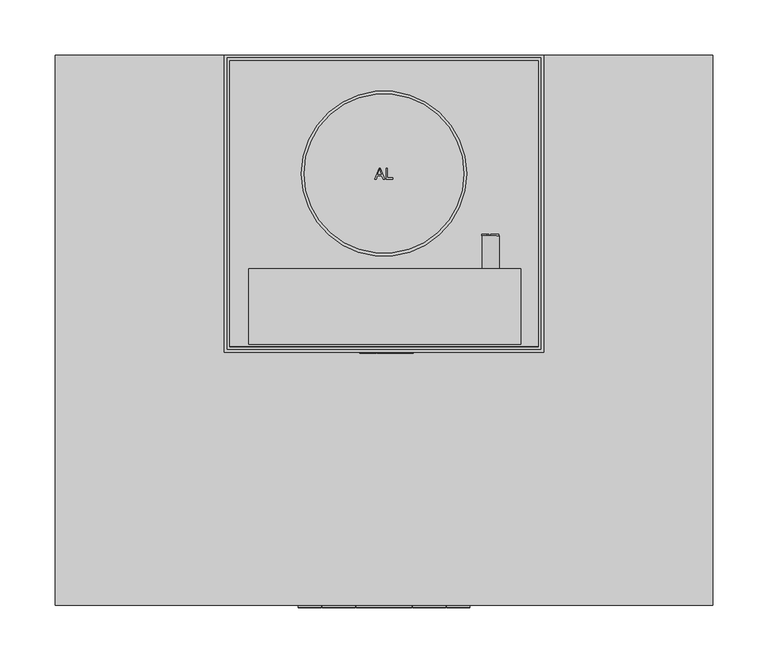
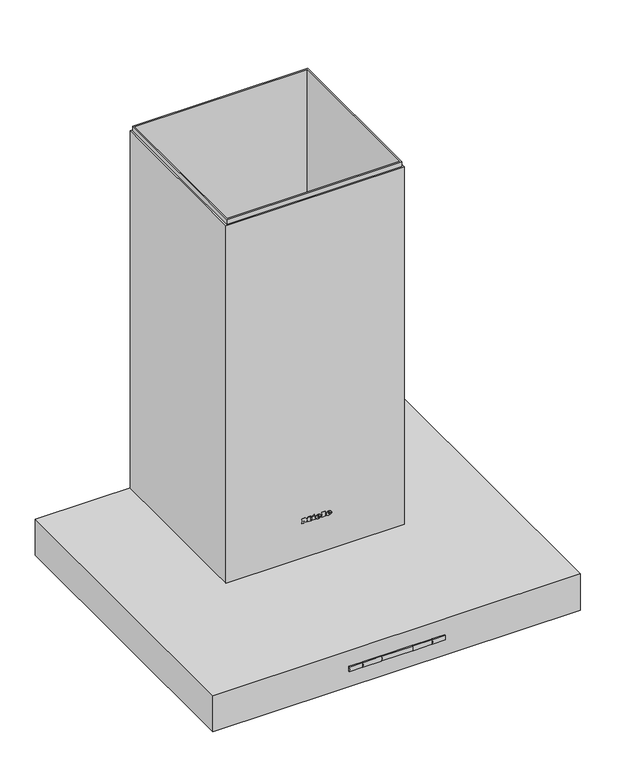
"""IFC4 building model written with IfcOpenShell, lengths in millimetres: proxy geometry, 12409490_D_PUR62W_MASW : 28416255_D_12409490_PUR62W_MASW."""

from ifc_helpers import new_model, si_unit, point, frame, frame_2d, origin, place, context, project, spatial, polyline, circle_curve, ellipse_curve, trimmed, segment, composite_curve, outline, extrude, faceted_brep, source, transform, mapped, element, save
from ifc_brep_helpers import plane_surface, cylinder_surface, revolved_surface, extruded_surface, advanced_brep


def specialty_equipment_f181dd9d(model_context):
    return source(origin(), model_context, "Body", "SolidModel", [
        advanced_brep(
        [(-146.5433287, -435.7, 0.8), (-93.4566713, -435.7, 0.8), (-90.883263, -435.7, 2.0), (-149.116737, -435.7, 2.0), (-120.0, -435.7, 0.8), (-120.0, -435.7, 2.0)],
        [
            (0, 1, circle_curve(frame((-120.0, -435.7, 0.8), z_axis=(0.0, 0.0, 1.0), x_axis=(1.0, 0.0, 0.0)), 26.5433287)),
            (1, 2),
            (2, 3, circle_curve(frame((-120.0, -435.7, 2.0), z_axis=(0.0, 0.0, -1.0), x_axis=(1.0, 0.0, 0.0)), 29.116737)),
            (3, 0),
            (1, 0, circle_curve(frame((-120.0, -435.7, 0.8), z_axis=(0.0, 0.0, 1.0), x_axis=(1.0, 0.0, 0.0)), 26.5433287)),
            (3, 2, circle_curve(frame((-120.0, -435.7, 2.0), z_axis=(0.0, 0.0, -1.0), x_axis=(1.0, 0.0, 0.0)), 29.116737)),
            (0, 4),
            (4, 1),
            (2, 5),
            (5, 3),
        ],
        [
            revolved_surface(polyline([(-90.883263, -435.7, 2.0), (-93.4566713, -435.7, 0.8)]), (-120.0, -435.7, 2240.4), (0.0, 0.0, -1.0)),
            plane_surface(frame((-120.0, -435.7, 0.8), z_axis=(0.0, 0.0, -1.0), x_axis=(1.0, 0.0, 0.0))),
            plane_surface(frame((-120.0, -435.7, 2.0), z_axis=(0.0, 0.0, 1.0), x_axis=(1.0, 0.0, 0.0))),
        ],
        [
            (0, [[1, 2, 3, 4]]),
            (0, [[-2, 5, -4, 6]]),
            (1, [[-1, 7, 8]]),
            (1, [[-5, -8, -7]]),
            (2, [[-3, 9, 10]]),
            (2, [[-6, -10, -9]]),
        ],
    ),
        advanced_brep(
        [(93.4566713, -435.7, 0.8), (146.5433287, -435.7, 0.8), (149.116737, -435.7, 2.0), (90.883263, -435.7, 2.0), (120.0, -435.7, 0.8), (120.0, -435.7, 2.0)],
        [
            (0, 1, circle_curve(frame((120.0, -435.7, 0.8), z_axis=(0.0, 0.0, 1.0), x_axis=(1.0, 0.0, 0.0)), 26.5433287)),
            (1, 2),
            (2, 3, circle_curve(frame((120.0, -435.7, 2.0), z_axis=(0.0, 0.0, -1.0), x_axis=(1.0, 0.0, 0.0)), 29.116737)),
            (3, 0),
            (1, 0, circle_curve(frame((120.0, -435.7, 0.8), z_axis=(0.0, 0.0, 1.0), x_axis=(1.0, 0.0, 0.0)), 26.5433287)),
            (3, 2, circle_curve(frame((120.0, -435.7, 2.0), z_axis=(0.0, 0.0, -1.0), x_axis=(1.0, 0.0, 0.0)), 29.116737)),
            (0, 4),
            (4, 1),
            (2, 5),
            (5, 3),
        ],
        [
            revolved_surface(polyline([(149.116737, -435.7, 2.0), (146.5433287, -435.7, 0.8)]), (120.0, -435.7, 2240.4), (0.0, 0.0, -1.0)),
            plane_surface(frame((120.0, -435.7, 0.8), z_axis=(0.0, 0.0, -1.0), x_axis=(1.0, 0.0, 0.0))),
            plane_surface(frame((120.0, -435.7, 2.0), z_axis=(0.0, 0.0, 1.0), x_axis=(1.0, 0.0, 0.0))),
        ],
        [
            (0, [[1, 2, 3, 4]]),
            (0, [[-2, 5, -4, 6]]),
            (1, [[-1, 7, 8]]),
            (1, [[-5, -8, -7]]),
            (2, [[-3, 9, 10]]),
            (2, [[-6, -10, -9]]),
        ],
    ),
        extrude(outline(polyline([(9.0, -34.0), (271.0, -34.0), (271.0, -391.0), (9.0, -391.0), (9.0, -34.0)])), frame((0.0, 0.0, 6.5), z_axis=(0.0, 0.0, 1.0), x_axis=(1.0, 0.0, 0.0)), (0.0, 0.0, 1.0), 6.0),
        extrude(outline(polyline([(0.0, -25.0), (280.0, -25.0), (280.0, -400.0), (0.0, -400.0), (0.0, -25.0)]), holes=[polyline([(9.0, -34.0), (9.0, -391.0), (271.0, -391.0), (271.0, -34.0), (9.0, -34.0)])]), frame((0.0, 0.0, 5.0), z_axis=(0.0, 0.0, 1.0), x_axis=(1.0, 0.0, 0.0)), (0.0, 0.0, 1.0), 9.0),
        extrude(outline(polyline([(-9.0, -34.0), (-9.0, -391.0), (-271.0, -391.0), (-271.0, -34.0), (-9.0, -34.0)])), frame((0.0, 0.0, 6.5), z_axis=(0.0, 0.0, 1.0), x_axis=(1.0, 0.0, 0.0)), (0.0, 0.0, 1.0), 6.0),
        extrude(outline(polyline([(0.0, -25.0), (0.0, -400.0), (-280.0, -400.0), (-280.0, -25.0), (0.0, -25.0)]), holes=[polyline([(-9.0, -34.0), (-271.0, -34.0), (-271.0, -391.0), (-9.0, -391.0), (-9.0, -34.0)])]), frame((0.0, 0.0, 5.0), z_axis=(0.0, 0.0, 1.0), x_axis=(1.0, 0.0, 0.0)), (0.0, 0.0, 1.0), 9.0),
        extrude(outline(polyline([(123.5, -348.0), (156.5, -348.0), (156.5, -391.0), (123.5, -391.0), (123.5, -348.0)]), holes=[polyline([(130.0, -354.5), (130.0, -363.5), (149.7714328, -363.5), (149.7714328, -354.5), (130.0, -354.5)])]), frame((0.0, 0.0, 5.0), z_axis=(0.0, 0.0, 1.0), x_axis=(1.0, 0.0, 0.0)), (0.0, 0.0, 1.0), 1.5),
        extrude(outline(polyline([(-123.5, -348.0), (-123.5, -391.0), (-156.5, -391.0), (-156.5, -348.0), (-123.5, -348.0)]), holes=[polyline([(-130.0, -354.5), (-150.0, -354.5), (-150.0, -363.5), (-130.0, -363.5), (-130.0, -354.5)])]), frame((0.0, 0.0, 5.0), z_axis=(0.0, 0.0, 1.0), x_axis=(1.0, 0.0, 0.0)), (0.0, 0.0, 1.0), 1.5),
        faceted_brep([(140.0, -5.0, 685.0), (-140.0, -5.0, 685.0), (-140.0, -5.0, 210.0), (140.0, -5.0, 210.0), (-140.0, -265.0, 685.0), (140.0, -265.0, 685.0), (140.0, -265.0, 210.0), (-140.0, -265.0, 210.0), (121.0, -265.0, 245.0), (121.0, -265.0, 345.0), (109.0, -265.0, 345.0), (109.0, -265.0, 245.0), (-121.0, -265.0, 345.0), (-121.0, -265.0, 245.0), (-109.0, -265.0, 245.0), (-109.0, -265.0, 345.0), (-86.0, -265.0, 345.0), (-97.5, -265.0, 345.0), (-97.5, -265.0, 245.0), (-86.0, -265.0, 245.0), (-63.0, -265.0, 345.0), (-74.5, -265.0, 345.0), (-74.5, -265.0, 245.0), (-63.0, -265.0, 245.0), (-40.0, -265.0, 345.0), (-51.5, -265.0, 345.0), (-51.5, -265.0, 245.0), (-40.0, -265.0, 245.0), (-17.0, -265.0, 345.0), (-28.5, -265.0, 345.0), (-28.5, -265.0, 245.0), (-17.0, -265.0, 245.0), (5.5, -265.0, 345.0), (-5.5, -265.0, 345.0), (-5.5, -265.0, 245.0), (5.5, -265.0, 245.0), (28.5, -265.0, 345.0), (17.0, -265.0, 345.0), (17.0, -265.0, 245.0), (28.5, -265.0, 245.0), (51.5, -265.0, 345.0), (40.0, -265.0, 345.0), (40.0, -265.0, 245.0), (51.5, -265.0, 245.0), (74.5, -265.0, 345.0), (63.0, -265.0, 345.0), (63.0, -265.0, 245.0), (74.5, -265.0, 245.0), (97.5, -265.0, 345.0), (86.0, -265.0, 345.0), (86.0, -265.0, 245.0), (97.5, -265.0, 245.0), (-142.5, -65.4, 245.0), (-140.0, -65.4, 245.0), (-140.0, -65.4, 345.0), (-142.5, -65.4, 345.0), (-140.0, -76.0, 345.0), (-142.5, -76.0, 345.0), (-140.0, -44.2, 245.0), (-142.5, -44.2, 245.0), (-142.5, -54.8, 245.0), (-140.0, -54.8, 245.0), (-140.0, -44.2, 345.0), (-142.5, -44.2, 345.0), (-140.0, -23.0, 245.0), (-142.5, -23.0, 245.0), (-142.5, -33.6, 245.0), (-140.0, -33.6, 245.0), (-140.0, -23.0, 345.0), (-142.5, -23.0, 345.0), (-121.0, -267.5, 345.0), (-109.0, -267.5, 345.0), (-109.0, -267.5, 245.0), (-86.0, -267.5, 345.0), (-97.5, -267.5, 345.0), (-63.0, -267.5, 345.0), (-74.5, -267.5, 345.0), (-40.0, -267.5, 345.0), (-51.5, -267.5, 345.0), (-17.0, -267.5, 345.0), (-28.5, -267.5, 345.0), (5.5, -267.5, 345.0), (-5.5, -267.5, 345.0), (28.5, -267.5, 345.0), (17.0, -267.5, 345.0), (51.5, -267.5, 345.0), (40.0, -267.5, 345.0), (74.5, -267.5, 345.0), (63.0, -267.5, 345.0), (97.5, -267.5, 345.0), (86.0, -267.5, 345.0), (-142.5, -267.5, 685.0), (142.5, -267.5, 685.0), (142.5, -2.5, 685.0), (-142.5, -2.5, 685.0), (-142.5, -267.5, 210.0), (-142.5, -2.5, 210.0), (142.5, -2.5, 210.0), (142.5, -267.5, 210.0), (-142.5, -247.0, 245.0), (-142.5, -236.4, 245.0), (-142.5, -236.4, 345.0), (-142.5, -247.0, 345.0), (-142.5, -225.8, 245.0), (-142.5, -215.2, 245.0), (-142.5, -215.2, 345.0), (-142.5, -225.8, 345.0), (-142.5, -204.6, 245.0), (-142.5, -194.0, 245.0), (-142.5, -194.0, 345.0), (-142.5, -204.6, 345.0), (-142.5, -183.4, 245.0), (-142.5, -172.8, 245.0), (-142.5, -172.8, 345.0), (-142.5, -183.4, 345.0), (-142.5, -162.2, 245.0), (-142.5, -151.6, 245.0), (-142.5, -151.6, 345.0), (-142.5, -162.2, 345.0), (-142.5, -141.0, 245.0), (-142.5, -129.0, 245.0), (-142.5, -129.0, 345.0), (-142.5, -141.0, 345.0), (-142.5, -118.4, 245.0), (-142.5, -107.8, 245.0), (-142.5, -107.8, 345.0), (-142.5, -118.4, 345.0), (-142.5, -97.2, 245.0), (-142.5, -86.6, 245.0), (-142.5, -86.6, 345.0), (-142.5, -97.2, 345.0), (-142.5, -76.0, 245.0), (-142.5, -54.8, 345.0), (-142.5, -33.6, 345.0), (-140.0, -236.4, 245.0), (-140.0, -247.0, 245.0), (-140.0, -247.0, 345.0), (-140.0, -236.4, 345.0), (-140.0, -215.2, 245.0), (-140.0, -225.8, 245.0), (-140.0, -225.8, 345.0), (-140.0, -215.2, 345.0), (-140.0, -194.0, 245.0), (-140.0, -204.6, 245.0), (-140.0, -204.6, 345.0), (-140.0, -194.0, 345.0), (-140.0, -172.8, 245.0), (-140.0, -183.4, 245.0), (-140.0, -183.4, 345.0), (-140.0, -172.8, 345.0), (-140.0, -151.6, 245.0), (-140.0, -162.2, 245.0), (-140.0, -162.2, 345.0), (-140.0, -151.6, 345.0), (-140.0, -129.0, 245.0), (-140.0, -141.0, 245.0), (-140.0, -141.0, 345.0), (-140.0, -129.0, 345.0), (-140.0, -107.8, 245.0), (-140.0, -118.4, 245.0), (-140.0, -118.4, 345.0), (-140.0, -107.8, 345.0), (-140.0, -86.6, 245.0), (-140.0, -97.2, 245.0), (-140.0, -97.2, 345.0), (-140.0, -86.6, 345.0), (-140.0, -76.0, 245.0), (-140.0, -54.8, 345.0), (-140.0, -33.6, 345.0), (140.0, -162.2, 345.0), (140.0, -162.2, 245.0), (140.0, -151.6, 245.0), (140.0, -151.6, 345.0), (140.0, -44.2, 245.0), (140.0, -44.2, 345.0), (140.0, -54.8, 345.0), (140.0, -54.8, 245.0), (140.0, -65.4, 245.0), (140.0, -65.4, 345.0), (140.0, -76.0, 345.0), (140.0, -76.0, 245.0), (140.0, -86.6, 245.0), (140.0, -86.6, 345.0), (140.0, -97.2, 345.0), (140.0, -97.2, 245.0), (140.0, -107.8, 245.0), (140.0, -107.8, 345.0), (140.0, -118.4, 345.0), (140.0, -118.4, 245.0), (140.0, -129.0, 245.0), (140.0, -129.0, 345.0), (140.0, -141.0, 345.0), (140.0, -141.0, 245.0), (140.0, -247.0, 345.0), (140.0, -247.0, 245.0), (140.0, -236.4, 245.0), (140.0, -236.4, 345.0), (140.0, -23.0, 245.0), (140.0, -23.0, 345.0), (140.0, -33.6, 345.0), (140.0, -33.6, 245.0), (140.0, -225.8, 345.0), (140.0, -225.8, 245.0), (140.0, -215.2, 245.0), (140.0, -215.2, 345.0), (140.0, -204.6, 345.0), (140.0, -204.6, 245.0), (140.0, -194.0, 245.0), (140.0, -194.0, 345.0), (140.0, -183.4, 345.0), (140.0, -183.4, 245.0), (140.0, -172.8, 245.0), (140.0, -172.8, 345.0), (142.5, -225.8, 245.0), (142.5, -225.8, 345.0), (142.5, -215.2, 345.0), (142.5, -215.2, 245.0), (142.5, -204.6, 245.0), (142.5, -204.6, 345.0), (142.5, -194.0, 345.0), (142.5, -194.0, 245.0), (142.5, -183.4, 245.0), (142.5, -183.4, 345.0), (142.5, -172.8, 345.0), (142.5, -172.8, 245.0), (142.5, -162.2, 245.0), (142.5, -162.2, 345.0), (142.5, -151.6, 345.0), (142.5, -151.6, 245.0), (142.5, -44.2, 345.0), (142.5, -44.2, 245.0), (142.5, -54.8, 245.0), (142.5, -54.8, 345.0), (142.5, -65.4, 345.0), (142.5, -65.4, 245.0), (142.5, -76.0, 245.0), (142.5, -76.0, 345.0), (142.5, -86.6, 345.0), (142.5, -86.6, 245.0), (142.5, -97.2, 245.0), (142.5, -97.2, 345.0), (142.5, -107.8, 345.0), (142.5, -107.8, 245.0), (142.5, -118.4, 245.0), (142.5, -118.4, 345.0), (142.5, -129.0, 345.0), (142.5, -129.0, 245.0), (142.5, -141.0, 245.0), (142.5, -141.0, 345.0), (142.5, -23.0, 345.0), (142.5, -23.0, 245.0), (142.5, -33.6, 245.0), (142.5, -33.6, 345.0), (142.5, -247.0, 245.0), (142.5, -247.0, 345.0), (142.5, -236.4, 345.0), (142.5, -236.4, 245.0), (-86.0, -267.5, 245.0), (-97.5, -267.5, 245.0), (-63.0, -267.5, 245.0), (-74.5, -267.5, 245.0), (-40.0, -267.5, 245.0), (-51.5, -267.5, 245.0), (-17.0, -267.5, 245.0), (-28.5, -267.5, 245.0), (5.5, -267.5, 245.0), (-5.5, -267.5, 245.0), (28.5, -267.5, 245.0), (17.0, -267.5, 245.0), (51.5, -267.5, 245.0), (40.0, -267.5, 245.0), (74.5, -267.5, 245.0), (63.0, -267.5, 245.0), (97.5, -267.5, 245.0), (86.0, -267.5, 245.0), (121.0, -267.5, 345.0), (121.0, -267.5, 245.0), (109.0, -267.5, 245.0), (109.0, -267.5, 345.0), (-121.0, -267.5, 245.0)], [[[0, 1, 2, 3]], [[4, 5, 6, 7], [8, 9, 10, 11], [12, 13, 14, 15], [16, 17, 18, 19], [20, 21, 22, 23], [24, 25, 26, 27], [28, 29, 30, 31], [32, 33, 34, 35], [36, 37, 38, 39], [40, 41, 42, 43], [44, 45, 46, 47], [48, 49, 50, 51]], [[52, 53, 54, 55]], [[55, 54, 56, 57]], [[58, 59, 60, 61]], [[59, 58, 62, 63]], [[64, 65, 66, 67]], [[65, 64, 68, 69]], [[70, 12, 15, 71]], [[71, 15, 14, 72]], [[16, 73, 74, 17]], [[20, 75, 76, 21]], [[24, 77, 78, 25]], [[28, 79, 80, 29]], [[32, 81, 82, 33]], [[36, 83, 84, 37]], [[40, 85, 86, 41]], [[44, 87, 88, 45]], [[48, 89, 90, 49]], [[91, 92, 93, 94], [0, 5, 4, 1]], [[95, 96, 97, 98], [3, 2, 7, 6]], [[91, 94, 96, 95], [99, 100, 101, 102], [103, 104, 105, 106], [107, 108, 109, 110], [111, 112, 113, 114], [115, 116, 117, 118], [119, 120, 121, 122], [123, 124, 125, 126], [127, 128, 129, 130], [131, 52, 55, 57], [60, 59, 63, 132], [66, 65, 69, 133]], [[1, 4, 7, 2], [134, 135, 136, 137], [138, 139, 140, 141], [142, 143, 144, 145], [146, 147, 148, 149], [150, 151, 152, 153], [154, 155, 156, 157], [158, 159, 160, 161], [162, 163, 164, 165], [53, 166, 56, 54], [58, 61, 167, 62], [64, 67, 168, 68]], [[5, 0, 3, 6], [169, 170, 171, 172], [173, 174, 175, 176], [177, 178, 179, 180], [181, 182, 183, 184], [185, 186, 187, 188], [189, 190, 191, 192], [193, 194, 195, 196], [197, 198, 199, 200], [201, 202, 203, 204], [205, 206, 207, 208], [209, 210, 211, 212]], [[93, 92, 98, 97], [213, 214, 215, 216], [217, 218, 219, 220], [221, 222, 223, 224], [225, 226, 227, 228], [229, 230, 231, 232], [233, 234, 235, 236], [237, 238, 239, 240], [241, 242, 243, 244], [245, 246, 247, 248], [249, 250, 251, 252], [253, 254, 255, 256]], [[92, 91, 95, 98], [74, 73, 257, 258], [76, 75, 259, 260], [78, 77, 261, 262], [80, 79, 263, 264], [82, 81, 265, 266], [84, 83, 267, 268], [86, 85, 269, 270], [88, 87, 271, 272], [90, 89, 273, 274], [275, 276, 277, 278], [279, 70, 71, 72]], [[94, 93, 97, 96]], [[8, 276, 275, 9]], [[12, 70, 279, 13]], [[253, 194, 193, 254]], [[249, 198, 197, 250]], [[194, 253, 256, 195]], [[195, 256, 255, 196]], [[254, 193, 196, 255]], [[198, 249, 252, 199]], [[199, 252, 251, 200]], [[250, 197, 200, 251]], [[213, 202, 201, 214]], [[202, 213, 216, 203]], [[203, 216, 215, 204]], [[214, 201, 204, 215]], [[217, 206, 205, 218]], [[206, 217, 220, 207]], [[207, 220, 219, 208]], [[218, 205, 208, 219]], [[221, 210, 209, 222]], [[210, 221, 224, 211]], [[211, 224, 223, 212]], [[222, 209, 212, 223]], [[225, 170, 169, 226]], [[170, 225, 228, 171]], [[171, 228, 227, 172]], [[226, 169, 172, 227]], [[229, 174, 173, 230]], [[174, 229, 232, 175]], [[175, 232, 231, 176]], [[230, 173, 176, 231]], [[233, 178, 177, 234]], [[178, 233, 236, 179]], [[179, 236, 235, 180]], [[234, 177, 180, 235]], [[237, 182, 181, 238]], [[182, 237, 240, 183]], [[183, 240, 239, 184]], [[238, 181, 184, 239]], [[241, 186, 185, 242]], [[186, 241, 244, 187]], [[187, 244, 243, 188]], [[242, 185, 188, 243]], [[245, 190, 189, 246]], [[190, 245, 248, 191]], [[191, 248, 247, 192]], [[246, 189, 192, 247]], [[134, 100, 99, 135]], [[100, 134, 137, 101]], [[101, 137, 136, 102]], [[135, 99, 102, 136]], [[138, 104, 103, 139]], [[104, 138, 141, 105]], [[105, 141, 140, 106]], [[139, 103, 106, 140]], [[142, 108, 107, 143]], [[108, 142, 145, 109]], [[109, 145, 144, 110]], [[143, 107, 110, 144]], [[146, 112, 111, 147]], [[112, 146, 149, 113]], [[113, 149, 148, 114]], [[147, 111, 114, 148]], [[150, 116, 115, 151]], [[116, 150, 153, 117]], [[117, 153, 152, 118]], [[151, 115, 118, 152]], [[154, 120, 119, 155]], [[120, 154, 157, 121]], [[121, 157, 156, 122]], [[155, 119, 122, 156]], [[158, 124, 123, 159]], [[124, 158, 161, 125]], [[125, 161, 160, 126]], [[159, 123, 126, 160]], [[162, 128, 127, 163]], [[128, 162, 165, 129]], [[129, 165, 164, 130]], [[163, 127, 130, 164]], [[53, 52, 131, 166]], [[166, 131, 57, 56]], [[63, 62, 167, 132]], [[61, 60, 132, 167]], [[69, 68, 168, 133]], [[67, 66, 133, 168]], [[13, 279, 72, 14]], [[276, 8, 11, 277]], [[277, 11, 10, 278]], [[9, 275, 278, 10]], [[73, 16, 19, 257]], [[257, 19, 18, 258]], [[17, 74, 258, 18]], [[75, 20, 23, 259]], [[259, 23, 22, 260]], [[21, 76, 260, 22]], [[77, 24, 27, 261]], [[261, 27, 26, 262]], [[25, 78, 262, 26]], [[79, 28, 31, 263]], [[263, 31, 30, 264]], [[29, 80, 264, 30]], [[81, 32, 35, 265]], [[265, 35, 34, 266]], [[33, 82, 266, 34]], [[83, 36, 39, 267]], [[267, 39, 38, 268]], [[37, 84, 268, 38]], [[85, 40, 43, 269]], [[269, 43, 42, 270]], [[41, 86, 270, 42]], [[87, 44, 47, 271]], [[271, 47, 46, 272]], [[45, 88, 272, 46]], [[89, 48, 51, 273]], [[273, 51, 50, 274]], [[49, 90, 274, 50]]]),
        extrude(outline(polyline([(145.0, 0.0), (145.0, -270.0), (-145.0, -270.0), (-145.0, 0.0), (145.0, 0.0)]), holes=[polyline([(-142.5, -2.5), (-142.5, -267.5), (142.5, -267.5), (142.5, -2.5), (-142.5, -2.5)])]), frame((0.0, 0.0, 62.0), z_axis=(0.0, 0.0, 1.0), x_axis=(1.0, 0.0, 0.0)), (0.0, 0.0, 1.0), 615.0),
        advanced_brep(
        [(21.104, -271.0, 123.896), (21.104, -271.0, 124.704), (26.456, -271.0, 124.704), (17.144, -271.0, 124.704), (19.344, -271.0, 122.0), (26.32, -271.0, 123.896), (23.904, -271.0, 123.896), (22.0, -271.0, 123.0), (21.104, -271.0, 125.728), (21.104, -271.0, 126.6), (22.472, -271.0, 126.6), (22.472, -271.0, 125.728), (21.104, -270.0, 123.896), (22.0, -270.0, 123.0), (23.904, -270.0, 123.896), (26.32, -270.0, 123.896), (19.344, -270.0, 122.0), (17.144, -270.0, 124.704), (26.456, -270.0, 124.704), (21.104, -270.0, 124.704), (21.104, -270.0, 125.728), (22.472, -270.0, 125.728), (22.472, -270.0, 126.6), (21.104, -270.0, 126.6)],
        [
            (0, 1),
            (1, 2),
            (2, 3, ellipse_curve(frame((21.8, -271.0, 124.704), z_axis=(0.0, -1.0, -1.2192856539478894e-11), x_axis=(-1.0, 0.0, 0.0)), 4.656, 3.848)),
            (3, 4, circle_curve(frame((20.2400436, -271.0, 124.976), z_axis=(0.0, -1.0, -1.2192856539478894e-11), x_axis=(0.0, 1.2192856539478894e-11, -1.0)), 3.1079688)),
            (4, 5, circle_curve(frame((21.7067936, -271.0, 127.088), z_axis=(0.0, -1.0, -1.2192856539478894e-11), x_axis=(0.0, 1.2192856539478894e-11, -1.0)), 5.6098607)),
            (5, 6),
            (6, 7, circle_curve(frame((22.3910588, -271.0, 124.64), z_axis=(0.0, 1.0, 1.2192856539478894e-11), x_axis=(0.0, 1.2192856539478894e-11, -1.0)), 1.6859795)),
            (7, 0, circle_curve(frame((22.0, -271.0, 123.896), z_axis=(0.0, 1.0, 1.2192856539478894e-11), x_axis=(0.0, 1.2192856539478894e-11, -1.0)), 0.896)),
            (8, 9),
            (9, 10, circle_curve(frame((21.788, -271.0, 126.6), z_axis=(0.0, 1.0, 1.2192856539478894e-11), x_axis=(0.0, 1.2192856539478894e-11, -1.0)), 0.684)),
            (10, 11),
            (11, 8),
            (12, 13, circle_curve(frame((22.0, -270.0, 123.896), z_axis=(0.0, -1.0, -1.2192856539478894e-11), x_axis=(0.0, 1.2192856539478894e-11, -1.0)), 0.896)),
            (13, 14, circle_curve(frame((22.3910588, -270.0, 124.64), z_axis=(0.0, -1.0, -1.2192856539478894e-11), x_axis=(0.0, 1.2192856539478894e-11, -1.0)), 1.6859795)),
            (14, 15),
            (15, 16, circle_curve(frame((21.7067936, -270.0, 127.088), z_axis=(0.0, 1.0, 1.2192856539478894e-11), x_axis=(0.0, 1.2192856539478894e-11, -1.0)), 5.6098607)),
            (16, 17, circle_curve(frame((20.2400436, -270.0, 124.976), z_axis=(0.0, 1.0, 1.2192856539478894e-11), x_axis=(0.0, 1.2192856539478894e-11, -1.0)), 3.1079688)),
            (17, 18, ellipse_curve(frame((21.8, -270.0, 124.704), z_axis=(0.0, 1.0, 1.2192856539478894e-11), x_axis=(-1.0, 0.0, 0.0)), 4.656, 3.848)),
            (18, 19),
            (19, 12),
            (20, 21),
            (21, 22),
            (22, 23, circle_curve(frame((21.788, -270.0, 126.6), z_axis=(0.0, -1.0, -1.2192856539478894e-11), x_axis=(0.0, 1.2192856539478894e-11, -1.0)), 0.684)),
            (23, 20),
            (0, 12),
            (19, 1),
            (18, 2),
            (5, 15),
            (14, 6),
            (17, 3),
            (13, 7),
            (16, 4),
            (8, 20),
            (23, 9),
            (22, 10),
            (21, 11),
        ],
        [
            plane_surface(frame((21.104, -271.0, 124.704), z_axis=(0.0, -1.0, -1.2192856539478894e-11), x_axis=(0.0, -1.2192856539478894e-11, 1.0))),
            plane_surface(frame((21.104, -270.0, 124.704), z_axis=(0.0, 1.0, 1.2192856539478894e-11), x_axis=(0.0, 1.2192856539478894e-11, -1.0))),
            plane_surface(frame((21.104, -271.0, 123.896), z_axis=(1.0, 0.0, 0.0), x_axis=(0.0, 1.0, 1.2192856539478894e-11))),
            plane_surface(frame((21.104, -271.0, 124.704), z_axis=(0.0, 1.2192856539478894e-11, -1.0), x_axis=(0.0, 1.0, 1.2192856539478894e-11))),
            plane_surface(frame((26.32, -271.0, 123.896), z_axis=(0.0, -1.2192856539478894e-11, 1.0), x_axis=(0.0, 1.0, 1.2192856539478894e-11))),
            extruded_surface(trimmed(ellipse_curve(frame((21.8, -269.0, 124.704), z_axis=(0.0, -1.0, -1.2192856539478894e-11), x_axis=(-1.0, 0.0, 0.0)), 4.656, 3.848), [point((26.456, -269.0, 124.704))], [point((17.144, -269.0, 124.704))], True, "CARTESIAN"), (0.0, -1.0, 0.0), 1.0),
            revolved_surface(polyline([(22.3910588, -269.9999999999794, 122.9540205), (22.3910588, -270.99999999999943, 122.9540204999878)]), (22.3910588, -270.0, 124.64), (0.0, 1.0, 1.2192856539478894e-11)),
            revolved_surface(polyline([(22.0, -269.9999999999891, 123.0), (22.0, -271.0, 122.9999999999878)]), (22.0, -270.0, 123.896), (0.0, 1.0, 1.2192856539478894e-11)),
            cylinder_surface(frame((20.2400436, -270.0, 124.976), z_axis=(0.0, -1.0, -1.2192856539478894e-11), x_axis=(0.0, 1.2192856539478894e-11, -1.0)), 3.1079688),
            cylinder_surface(frame((21.7067936, -270.0, 127.088), z_axis=(0.0, -1.0, -1.2192856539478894e-11), x_axis=(0.0, 1.2192856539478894e-11, -1.0)), 5.6098607),
            plane_surface(frame((21.104, -271.0, 125.728), z_axis=(1.0, 0.0, 0.0), x_axis=(0.0, 1.0, 1.2192856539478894e-11))),
            revolved_surface(polyline([(21.788, -269.99999999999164, 125.916), (21.788, -270.99999999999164, 125.9159999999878)]), (21.788, -270.0, 126.6), (0.0, 1.0, 1.2192856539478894e-11)),
            plane_surface(frame((22.472, -271.0, 126.6), z_axis=(-1.0, 0.0, 0.0), x_axis=(0.0, 1.0, 1.2192856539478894e-11))),
            plane_surface(frame((22.472, -271.0, 125.728), z_axis=(0.0, -1.2192856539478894e-11, 1.0), x_axis=(0.0, 1.0, 1.2192856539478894e-11))),
        ],
        [
            (0, [[1, 2, 3, 4, 5, 6, 7, 8], [9, 10, 11, 12]]),
            (1, [[13, 14, 15, 16, 17, 18, 19, 20], [21, 22, 23, 24]]),
            (2, [[-1, 25, -20, 26]]),
            (3, [[-2, -26, -19, 27]]),
            (4, [[-6, 28, -15, 29]]),
            (5, [[-3, -27, -18, 30]]),
            (6, [[-7, -29, -14, 31]]),
            (7, [[-8, -31, -13, -25]]),
            (8, [[-4, -30, -17, 32]]),
            (9, [[-5, -32, -16, -28]]),
            (10, [[-9, 33, -24, 34]]),
            (11, [[-10, -34, -23, 35]]),
            (12, [[-11, -35, -22, 36]]),
            (13, [[-12, -36, -21, -33]]),
        ],
    ),
        advanced_brep(
        [(4.408, -271.0, 123.896), (4.408, -271.0, 124.704), (9.76, -271.0, 124.704), (0.448, -271.0, 124.704), (2.648, -271.0, 122.0), (9.624, -271.0, 123.896), (7.208, -271.0, 123.896), (5.304, -271.0, 123.0), (4.408, -271.0, 125.728), (4.408, -271.0, 126.6), (5.776, -271.0, 126.6), (5.776, -271.0, 125.728), (4.408, -270.0, 123.896), (5.304, -270.0, 123.0), (7.208, -270.0, 123.896), (9.624, -270.0, 123.896), (2.648, -270.0, 122.0), (0.448, -270.0, 124.704), (9.76, -270.0, 124.704), (4.408, -270.0, 124.704), (4.408, -270.0, 125.728), (5.776, -270.0, 125.728), (5.776, -270.0, 126.6), (4.408, -270.0, 126.6)],
        [
            (0, 1),
            (1, 2),
            (2, 3, ellipse_curve(frame((5.104, -271.0, 124.704), z_axis=(0.0, -1.0, -1.2192856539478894e-11), x_axis=(-1.0, 0.0, 0.0)), 4.656, 3.848)),
            (3, 4, circle_curve(frame((3.5440436, -271.0, 124.976), z_axis=(0.0, -1.0, -1.2192856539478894e-11), x_axis=(0.0, 1.2192856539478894e-11, -1.0)), 3.1079688)),
            (4, 5, circle_curve(frame((5.0107936, -271.0, 127.088), z_axis=(0.0, -1.0, -1.2192856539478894e-11), x_axis=(0.0, 1.2192856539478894e-11, -1.0)), 5.6098607)),
            (5, 6),
            (6, 7, circle_curve(frame((5.6950588, -271.0, 124.64), z_axis=(0.0, 1.0, 1.2192856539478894e-11), x_axis=(0.0, 1.2192856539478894e-11, -1.0)), 1.6859795)),
            (7, 0, circle_curve(frame((5.304, -271.0, 123.896), z_axis=(0.0, 1.0, 1.2192856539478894e-11), x_axis=(0.0, 1.2192856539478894e-11, -1.0)), 0.896)),
            (8, 9),
            (9, 10, circle_curve(frame((5.092, -271.0, 126.6), z_axis=(0.0, 1.0, 1.2192856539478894e-11), x_axis=(0.0, 1.2192856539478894e-11, -1.0)), 0.684)),
            (10, 11),
            (11, 8),
            (12, 13, circle_curve(frame((5.304, -270.0, 123.896), z_axis=(0.0, -1.0, -1.2192856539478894e-11), x_axis=(0.0, 1.2192856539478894e-11, -1.0)), 0.896)),
            (13, 14, circle_curve(frame((5.6950588, -270.0, 124.64), z_axis=(0.0, -1.0, -1.2192856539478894e-11), x_axis=(0.0, 1.2192856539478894e-11, -1.0)), 1.6859795)),
            (14, 15),
            (15, 16, circle_curve(frame((5.0107936, -270.0, 127.088), z_axis=(0.0, 1.0, 1.2192856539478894e-11), x_axis=(0.0, 1.2192856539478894e-11, -1.0)), 5.6098607)),
            (16, 17, circle_curve(frame((3.5440436, -270.0, 124.976), z_axis=(0.0, 1.0, 1.2192856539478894e-11), x_axis=(0.0, 1.2192856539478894e-11, -1.0)), 3.1079688)),
            (17, 18, ellipse_curve(frame((5.104, -270.0, 124.704), z_axis=(0.0, 1.0, 1.2192856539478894e-11), x_axis=(-1.0, 0.0, 0.0)), 4.656, 3.848)),
            (18, 19),
            (19, 12),
            (20, 21),
            (21, 22),
            (22, 23, circle_curve(frame((5.092, -270.0, 126.6), z_axis=(0.0, -1.0, -1.2192856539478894e-11), x_axis=(0.0, 1.2192856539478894e-11, -1.0)), 0.684)),
            (23, 20),
            (0, 12),
            (19, 1),
            (18, 2),
            (5, 15),
            (14, 6),
            (17, 3),
            (13, 7),
            (16, 4),
            (8, 20),
            (23, 9),
            (22, 10),
            (21, 11),
        ],
        [
            plane_surface(frame((4.408, -271.0, 124.704), z_axis=(0.0, -1.0, -1.2192856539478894e-11), x_axis=(0.0, -1.2192856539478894e-11, 1.0))),
            plane_surface(frame((4.408, -270.0, 124.704), z_axis=(0.0, 1.0, 1.2192856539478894e-11), x_axis=(0.0, 1.2192856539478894e-11, -1.0))),
            plane_surface(frame((4.408, -271.0, 123.896), z_axis=(1.0, 0.0, 0.0), x_axis=(0.0, 1.0, 1.2192856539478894e-11))),
            plane_surface(frame((4.408, -271.0, 124.704), z_axis=(0.0, 1.2192856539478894e-11, -1.0), x_axis=(0.0, 1.0, 1.2192856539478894e-11))),
            plane_surface(frame((9.624, -271.0, 123.896), z_axis=(0.0, -1.2192856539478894e-11, 1.0), x_axis=(0.0, 1.0, 1.2192856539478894e-11))),
            extruded_surface(trimmed(ellipse_curve(frame((5.104, -269.0, 124.704), z_axis=(0.0, -1.0, -1.2192856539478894e-11), x_axis=(-1.0, 0.0, 0.0)), 4.656, 3.848), [point((9.76, -269.0, 124.704))], [point((0.448, -269.0, 124.704))], True, "CARTESIAN"), (0.0, -1.0, 0.0), 1.0),
            revolved_surface(polyline([(5.6950588, -269.9999999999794, 122.9540205), (5.6950588, -270.99999999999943, 122.9540204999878)]), (5.6950588, -270.0, 124.64), (0.0, 1.0, 1.2192856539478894e-11)),
            revolved_surface(polyline([(5.304, -269.9999999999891, 123.0), (5.304, -271.0, 122.9999999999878)]), (5.304, -270.0, 123.896), (0.0, 1.0, 1.2192856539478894e-11)),
            cylinder_surface(frame((3.5440436, -270.0, 124.976), z_axis=(0.0, -1.0, -1.2192856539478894e-11), x_axis=(0.0, 1.2192856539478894e-11, -1.0)), 3.1079688),
            cylinder_surface(frame((5.0107936, -270.0, 127.088), z_axis=(0.0, -1.0, -1.2192856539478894e-11), x_axis=(0.0, 1.2192856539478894e-11, -1.0)), 5.6098607),
            plane_surface(frame((4.408, -271.0, 125.728), z_axis=(1.0, 0.0, 0.0), x_axis=(0.0, 1.0, 1.2192856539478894e-11))),
            revolved_surface(polyline([(5.092, -269.99999999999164, 125.916), (5.092, -270.99999999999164, 125.9159999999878)]), (5.092, -270.0, 126.6), (0.0, 1.0, 1.2192856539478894e-11)),
            plane_surface(frame((5.776, -271.0, 126.6), z_axis=(-1.0, 0.0, 0.0), x_axis=(0.0, 1.0, 1.2192856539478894e-11))),
            plane_surface(frame((5.776, -271.0, 125.728), z_axis=(0.0, -1.2192856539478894e-11, 1.0), x_axis=(0.0, 1.0, 1.2192856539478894e-11))),
        ],
        [
            (0, [[1, 2, 3, 4, 5, 6, 7, 8], [9, 10, 11, 12]]),
            (1, [[13, 14, 15, 16, 17, 18, 19, 20], [21, 22, 23, 24]]),
            (2, [[-1, 25, -20, 26]]),
            (3, [[-2, -26, -19, 27]]),
            (4, [[-6, 28, -15, 29]]),
            (5, [[-3, -27, -18, 30]]),
            (6, [[-7, -29, -14, 31]]),
            (7, [[-8, -31, -13, -25]]),
            (8, [[-4, -30, -17, 32]]),
            (9, [[-5, -32, -16, -28]]),
            (10, [[-9, 33, -24, 34]]),
            (11, [[-10, -34, -23, 35]]),
            (12, [[-11, -35, -22, 36]]),
            (13, [[-12, -36, -21, -33]]),
        ],
    ),
        extrude(outline(polyline([(0.0, 0.0), (1.4315306, 0.0), (1.4390415, -2.9920868), (0.0109086, -2.9993294), (0.0, 0.0)])), frame((-4.336, -271.0, 129.528), z_axis=(0.0, 1.0, 1.2192856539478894e-11), x_axis=(0.42472021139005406, 1.1041186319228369e-11, -0.9053246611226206)), (0.0, 0.0, 1.0), 1.0),
        extrude(outline(polyline([(0.4933908, 2.4141097), (1.7898157, 3.022309), (2.1941493, 2.1604399), (5.1636142, 3.5535222), (4.7592806, 4.4153913), (5.9760369, 4.9862153), (8.6568709, -0.728194), (7.4401145, -1.2990179), (7.0459742, -0.4588767), (2.7800844, -2.4601583), (0.4933908, 2.4141097)])), frame((-4.336, -271.0, 129.528), z_axis=(0.0, 1.0, 1.2192856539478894e-11), x_axis=(0.42472021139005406, 1.1041186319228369e-11, -0.9053246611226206)), (0.0, 0.0, 1.0), 1.0),
        extrude(outline(polyline([(0.0, 0.0), (0.96, 0.0), (0.96, 5.352), (0.0, 5.352), (0.0, 6.696), (6.488, 6.696), (6.488, 5.352), (5.504, 5.352), (5.504, -1.304), (0.0, -1.304), (0.0, 0.0)])), frame((10.208, -271.0, 128.696), z_axis=(0.0, 1.0, 1.2192856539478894e-11), x_axis=(1.0, 0.0, 0.0)), (0.0, 0.0, 1.0), 1.0),
        extrude(outline(polyline([(0.0, 0.0), (0.968, 0.0), (0.968, 5.352), (0.0, 5.352), (0.0, 6.696), (3.52, 6.696), (3.52, 5.352), (2.56, 5.352), (2.56, 1.9488753), (6.136, 6.696), (9.728, 1.8807777), (9.728, 5.352), (8.744, 5.352), (8.744, 6.696), (15.128, 6.696), (15.128, 5.352), (14.112, 5.352), (14.112, 0.0), (15.128, 0.0), (15.128, -1.304), (10.256, -1.304), (7.92, 1.696), (5.576, -1.304), (0.0, -1.304), (0.0, 0.0)])), frame((-22.256, -271.0, 128.696), z_axis=(0.0, 1.0, 1.2192856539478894e-11), x_axis=(1.0, 0.0, 0.0)), (0.0, 0.0, 1.0), 1.0),
        extrude(outline(composite_curve([segment(polyline([(-500.0, 27.0), (-501.8150871, 27.0)]), True, "CONTINUOUS"), segment(trimmed(circle_curve(frame_2d((-482.0150871, 31.0)), 20.2), [point((-501.8150871, 27.0))], [point((-501.8150871, 35.0))], False, "CARTESIAN"), True, "CONTINUOUS"), segment(polyline([(-501.8150871, 35.0), (-500.0, 35.0), (-500.0, 27.0)]), True, "CONTINUOUS")], self_intersect=False)), frame((57.0, 0.0, 0.0), z_axis=(1.0, 0.0, 0.0), x_axis=(0.0, 1.0, 0.0)), (0.0, 0.0, 1.0), 21.0),
        extrude(outline(composite_curve([segment(trimmed(circle_curve(frame_2d((-482.0150871, 31.0)), 20.2), [point((-501.8150871, 27.0))], [point((-501.8150871, 35.0))], False, "CARTESIAN"), True, "CONTINUOUS"), segment(polyline([(-501.8150871, 35.0), (-500.0, 35.0), (-500.0, 27.0), (-501.8150871, 27.0)]), True, "CONTINUOUS")], self_intersect=False)), frame((-78.0, 0.0, 0.0), z_axis=(1.0, 0.0, 0.0), x_axis=(0.0, 1.0, 0.0)), (0.0, 0.0, 1.0), 21.0),
        extrude(outline(composite_curve([segment(polyline([(-500.0, 27.0), (-501.8150871, 27.0)]), True, "CONTINUOUS"), segment(trimmed(circle_curve(frame_2d((-482.0150871, 31.0)), 20.2), [point((-501.8150871, 27.0))], [point((-501.8150871, 35.0))], False, "CARTESIAN"), True, "CONTINUOUS"), segment(polyline([(-501.8150871, 35.0), (-500.0, 35.0), (-500.0, 27.0)]), True, "CONTINUOUS")], self_intersect=False)), frame((-56.0, 0.0, 0.0), z_axis=(1.0, 0.0, 0.0), x_axis=(0.0, 1.0, 0.0)), (0.0, 0.0, 1.0), 30.0),
        extrude(outline(composite_curve([segment(polyline([(-500.0, 27.0), (-501.8150871, 27.0)]), True, "CONTINUOUS"), segment(trimmed(circle_curve(frame_2d((-482.0150871, 31.0)), 20.2), [point((-501.8150871, 27.0))], [point((-501.8150871, 35.0))], False, "CARTESIAN"), True, "CONTINUOUS"), segment(polyline([(-501.8150871, 35.0), (-500.0, 35.0), (-500.0, 27.0)]), True, "CONTINUOUS")], self_intersect=False)), frame((-25.0, 0.0, 0.0), z_axis=(1.0, 0.0, 0.0), x_axis=(0.0, 1.0, 0.0)), (0.0, 0.0, 1.0), 50.0),
        extrude(outline(composite_curve([segment(polyline([(-500.0, 27.0), (-501.8150871, 27.0)]), True, "CONTINUOUS"), segment(trimmed(circle_curve(frame_2d((-482.0150871, 31.0)), 20.2), [point((-501.8150871, 27.0))], [point((-501.8150871, 35.0))], False, "CARTESIAN"), True, "CONTINUOUS"), segment(polyline([(-501.8150871, 35.0), (-500.0, 35.0), (-500.0, 27.0)]), True, "CONTINUOUS")], self_intersect=False)), frame((26.0, 0.0, 0.0), z_axis=(1.0, 0.0, 0.0), x_axis=(0.0, 1.0, 0.0)), (0.0, 0.0, 1.0), 30.0),
        faceted_brep([(299.0, 0.0, 62.0), (-299.0, 0.0, 62.0), (-299.0, -500.0, 62.0), (299.0, -500.0, 62.0), (299.0, 0.0, 0.0), (299.0, -500.0, 0.0), (-299.0, -500.0, 0.0), (-299.0, 0.0, 0.0), (-280.5, 0.0, 0.0), (-280.5, -473.0, 0.0), (280.5, -473.0, 0.0), (280.5, 0.0, 0.0), (280.5, 0.0, 2.0), (-280.5, 0.0, 2.0), (280.5, -24.6, 2.0), (-280.5, -24.6, 2.0), (280.5, -473.0, 2.0), (280.5, -400.6, 2.0), (280.5, -400.6, 13.7), (280.5, -24.6, 13.7), (-280.5, -473.0, 2.0), (-280.5, -24.6, 13.7), (-280.5, -400.6, 13.7), (-280.5, -400.6, 2.0)], [[[0, 1, 2, 3]], [[4, 5, 6, 7, 8, 9, 10, 11]], [[1, 0, 4, 11, 12, 13, 8, 7]], [[2, 1, 7, 6]], [[3, 2, 6, 5]], [[0, 3, 5, 4]], [[12, 14, 15, 13]], [[16, 17, 18, 19, 14, 12, 11, 10]], [[20, 9, 8, 13, 15, 21, 22, 23]], [[16, 10, 9, 20]], [[14, 19, 21, 15]], [[19, 18, 22, 21]], [[18, 17, 23, 22]], [[17, 16, 20, 23]]]),
        extrude(outline(polyline([(-8.547125, -112.7), (-4.5372113, -102.654369), (-3.4679009, -102.654369), (0.5420128, -112.7), (-0.7848149, -112.7), (-1.9350593, -109.5607403), (-6.0725055, -109.5607403), (-7.2202973, -112.7), (-8.547125, -112.7)]), holes=[polyline([(-5.6114267, -108.3050364), (-2.3936855, -108.3050364), (-3.2986752, -105.835322), (-4.0025561, -103.9100729), (-4.6279555, -105.6194979), (-5.6114267, -108.3050364)])]), frame((0.0, 0.0, 439.0), z_axis=(0.0, 0.0, 1.0), x_axis=(1.0, 0.0, 0.0)), (0.0, 0.0, 1.0), 1.0),
        extrude(outline(polyline([(1.8835558, -112.7), (1.8835558, -102.654369), (3.1392597, -102.654369), (3.1392597, -111.4442961), (8.1620752, -111.4442961), (8.1620752, -112.7), (1.8835558, -112.7)])), frame((0.0, 0.0, 439.0), z_axis=(0.0, 0.0, 1.0), x_axis=(1.0, 0.0, 0.0)), (0.0, 0.0, 1.0), 1.0),
        extrude(outline(polyline([(384.8, 95.1164442), (394.845631, 95.1164442), (394.845631, 93.8607403), (386.0557039, 93.8607403), (386.0557039, 88.8379248), (384.8, 88.8379248), (384.8, 95.1164442)])), frame((0.0, -164.0, 0.0), z_axis=(0.0, 1.0, 0.0), x_axis=(0.0, 0.0, 1.0)), (0.0, 0.0, 1.0), 1.0),
        extrude(outline(polyline([(384.8, 104.3772603), (394.845631, 104.3772603), (394.845631, 97.156963), (393.5899271, 97.156963), (393.5899271, 103.1215564), (390.6076304, 103.1215564), (390.6076304, 97.470889), (389.3519266, 97.470889), (389.3519266, 103.1215564), (386.0557039, 103.1215564), (386.0557039, 97.0), (384.8, 97.0), (384.8, 104.3772603)])), frame((0.0, -164.0, 0.0), z_axis=(0.0, 1.0, 0.0), x_axis=(0.0, 0.0, 1.0)), (0.0, 0.0, 1.0), 1.0),
        extrude(outline(composite_curve([segment(trimmed(circle_curve(frame_2d((389.8, 97.0)), 7.5369395), [point((389.8, 104.5369395))], [point((389.8, 89.4630605))], False, "CARTESIAN"), True, "CONTINUOUS"), segment(trimmed(circle_curve(frame_2d((389.8, 97.0)), 7.5369395), [point((389.8, 89.4630605))], [point((389.8, 104.5369395))], False, "CARTESIAN"), True, "CONTINUOUS")], self_intersect=False)), frame((0.0, -194.0, 0.0), z_axis=(0.0, 1.0, 0.0), x_axis=(0.0, 0.0, 1.0)), (0.0, 0.0, 1.0), 30.0),
        extrude(outline(polyline([(124.5, -263.0), (-123.0, -263.0), (-123.0, -194.0), (124.5, -194.0), (124.5, -263.0)])), frame((0.0, 0.0, 379.8), z_axis=(0.0, 0.0, 1.0), x_axis=(1.0, 0.0, 0.0)), (0.0, 0.0, 1.0), 120.2),
        extrude(outline(composite_curve([segment(trimmed(circle_curve(frame_2d((0.0, -107.7)), 75.0), [point((-75.0, -107.7))], [point((75.0, -107.7))], False, "CARTESIAN"), True, "CONTINUOUS"), segment(trimmed(circle_curve(frame_2d((0.0, -107.7)), 75.0), [point((75.0, -107.7))], [point((-75.0, -107.7))], False, "CARTESIAN"), True, "CONTINUOUS")], self_intersect=False), holes=[composite_curve([segment(trimmed(circle_curve(frame_2d((0.0, -107.7)), 72.5), [point((-72.5, -107.7))], [point((72.5, -107.7))], True, "CARTESIAN"), True, "CONTINUOUS"), segment(trimmed(circle_curve(frame_2d((0.0, -107.7)), 72.5), [point((72.5, -107.7))], [point((-72.5, -107.7))], True, "CARTESIAN"), True, "CONTINUOUS")], self_intersect=False)]), frame((0.0, 0.0, 379.8), z_axis=(0.0, 0.0, 1.0), x_axis=(1.0, 0.0, 0.0)), (0.0, 0.0, 1.0), 59.2),
        extrude(outline(polyline([(141.25, -4.0), (141.25, -264.5), (-141.25, -264.5), (-141.25, -4.0), (141.25, -4.0)])), frame((0.0, 0.0, 85.7), z_axis=(0.0, 0.0, 1.0), x_axis=(1.0, 0.0, 0.0)), (0.0, 0.0, 1.0), 294.1),
        extrude(outline(polyline([(142.2, -4.0), (142.2, -267.0), (-142.2, -267.0), (-142.2, -4.0), (142.2, -4.0)])), frame((0.0, 0.0, 62.0), z_axis=(0.0, 0.0, 1.0), x_axis=(1.0, 0.0, 0.0)), (0.0, 0.0, 1.0), 23.7),
    ])


if __name__ == "__main__":
    model = new_model("IFC4")
    model_context = context("Model", 3, world=origin())
    ifc_project = project(units=[si_unit("LENGTHUNIT", "METRE", prefix="MILLI")], contexts=[model_context])
    site = spatial("IfcSite", under=ifc_project)
    building = spatial("IfcBuilding", under=site)
    placement = place(None, origin())
    specialty_equipment_shape = specialty_equipment_f181dd9d(model_context)
    element("IfcBuildingElementProxy", 1, Name="12409490_D_PUR62W_MASW : 28416255_D_12409490_PUR62W_MASW", ObjectType="12409490_D_PUR62W_MASW : 28416255_D_12409490_PUR62W_MASW", at=placement, inside=building, context=model_context, shape_type="MappedRepresentation", body=[
        mapped(specialty_equipment_shape, transform((0.0, 0.0, 0.0), x_axis=(1.0, 0.0, 0.0), y_axis=(0.0, 1.0, 0.0), z_axis=(0.0, 0.0, 1.0))),
    ])
    save(model, "model.ifc")
